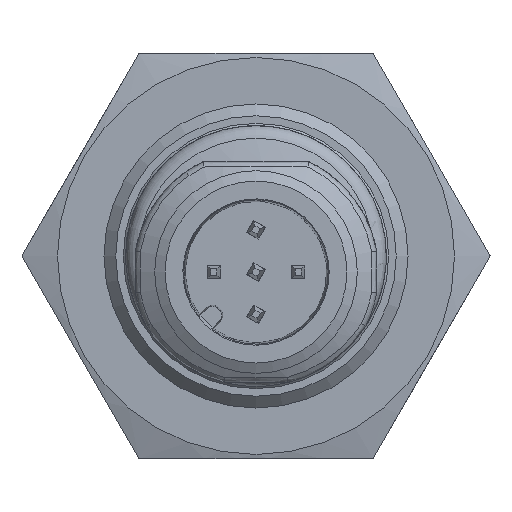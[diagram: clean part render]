
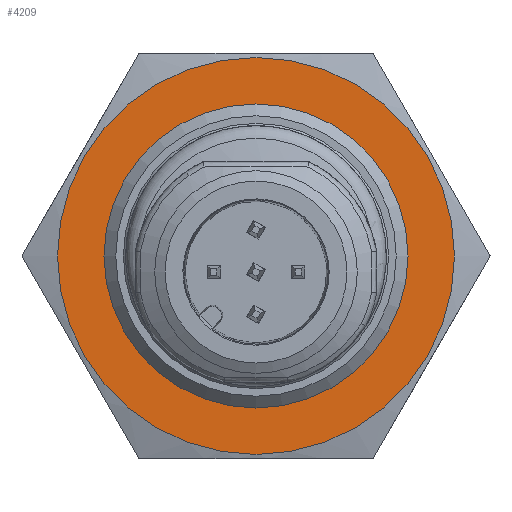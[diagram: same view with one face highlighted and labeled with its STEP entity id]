
A CAD part, left-side view. The second image highlights one B-rep face of the part: STEP entity #4209.
In plain terms, the highlighted planar face has unit normal (-1, 0, 0) as drawn and (0, 1, 0) by its records, which use the part's own axes.
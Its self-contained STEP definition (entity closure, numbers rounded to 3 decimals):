
#764=PLANE('',#4499);
#1652=ORIENTED_EDGE('',*,*,#2074,.F.);
#1653=ORIENTED_EDGE('',*,*,#2073,.F.);
#2073=EDGE_CURVE('',#2360,#2360,#2441,.T.);
#2074=EDGE_CURVE('',#2361,#2361,#2442,.T.);
#2360=VERTEX_POINT('',#6579);
#2361=VERTEX_POINT('',#6582);
#2441=CIRCLE('',#4498,11.75);
#2442=CIRCLE('',#4500,8.459);
#2641=EDGE_LOOP('',(#1652));
#2642=EDGE_LOOP('',(#1653));
#2843=FACE_BOUND('',#2641,.T.);
#2844=FACE_BOUND('',#2642,.T.);
#4209=ADVANCED_FACE('',(#2843,#2844),#764,.T.);
#4498=AXIS2_PLACEMENT_3D('',#6578,#5280,#5281);
#4499=AXIS2_PLACEMENT_3D('',#6580,#5282,#5283);
#4500=AXIS2_PLACEMENT_3D('',#6581,#5284,#5285);
#5280=DIRECTION('',(0.,-1.,0.));
#5281=DIRECTION('',(0.,0.,-1.));
#5282=DIRECTION('',(0.,1.,0.));
#5283=DIRECTION('',(0.,0.,1.));
#5284=DIRECTION('',(0.,1.,0.));
#5285=DIRECTION('',(0.,0.,1.));
#6578=CARTESIAN_POINT('',(0.,2.,0.));
#6579=CARTESIAN_POINT('',(0.,2.,-11.75));
#6580=CARTESIAN_POINT('',(0.,2.,0.));
#6581=CARTESIAN_POINT('',(0.,2.,0.));
#6582=CARTESIAN_POINT('',(0.,2.,8.459));
